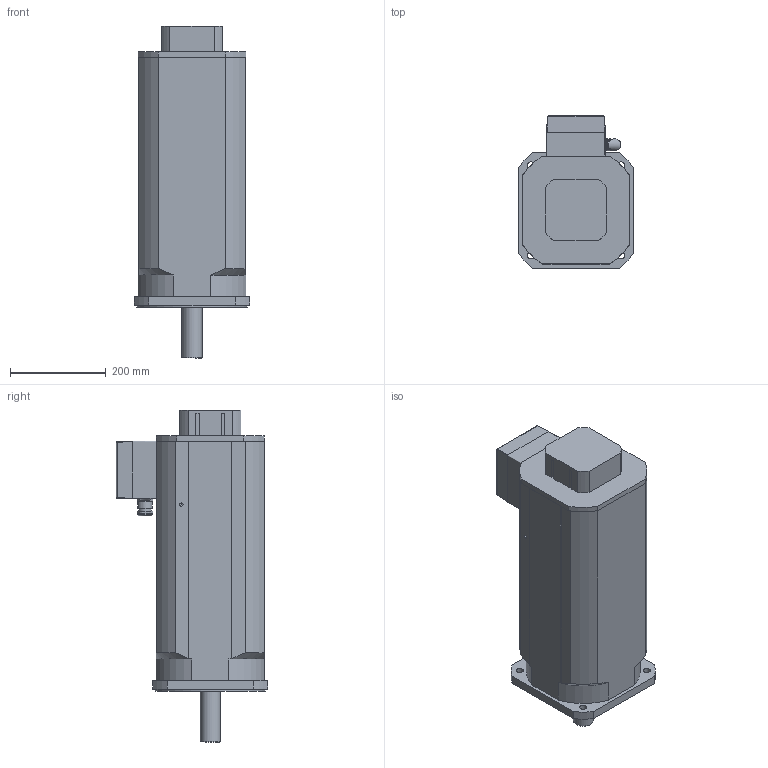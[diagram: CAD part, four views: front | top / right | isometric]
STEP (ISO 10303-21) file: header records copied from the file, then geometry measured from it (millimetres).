
FILE_DESCRIPTION(/* description */ ('Alibre Inc.'),/* implementation_level */ '2;1');
FILE_NAME(/* name */ 'export0',/* time_stamp */ '2011-11-01T08:44:13+01:00',/* author */ (''),/* organization */ (''),/* preprocessor_version */ 'ST-DEVELOPER v12',/* originating_system */ 'Alibre',/* authorisation */ '');
FILE_SCHEMA (('CONFIG_CONTROL_DESIGN'));
Length unit declared in the file: millimetre
Products named in the file (8): ID_1
Bounding box: 240 x 316 x 692 mm (x, y, z)
Volume: 27224008.3 mm3; surface area: 805468.2 mm2
Topology: 7 solids, 7 shells, 264 faces, 682 edges, 442 vertices
Faces by surface type: plane 123, cylinder 107, torus 15, cone 14, bspline 5
Full cylindrical faces by diameter (mm): 2.7 x4, 6.647 x3, 10.106 x1, 15 x5, 20 x6, 22 x2, 25 x2, 26.75 x1, 30 x2, 42 x1, 45 x1, 230 x1
Entity records: 9786 total; most frequent: CARTESIAN_POINT 2858, ORIENTED_EDGE 1246, DIRECTION 1204, EDGE_CURVE 623, AXIS2_PLACEMENT_3D 520, VERTEX_POINT 429, EDGE_LOOP 338, FACE_BOUND 338
